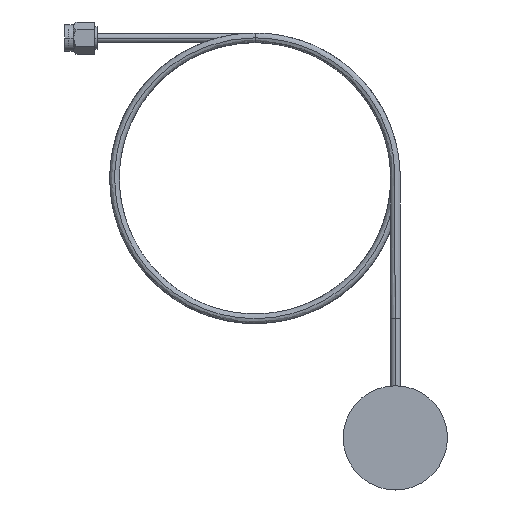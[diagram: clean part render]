
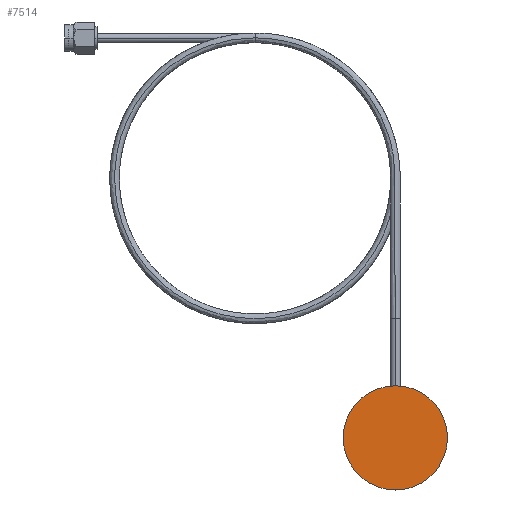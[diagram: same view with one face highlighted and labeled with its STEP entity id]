
A CAD part, top view. The second image highlights one B-rep face of the part: STEP entity #7514.
In plain terms, the highlighted planar face has unit normal (0, 0, 1).
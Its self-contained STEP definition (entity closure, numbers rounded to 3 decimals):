
#138 = FACE_OUTER_BOUND ( 'NONE', #4179, .T. ) ;
#383 = CARTESIAN_POINT ( 'NONE',  ( 0., 0., 204.709 ) ) ;
#542 = ORIENTED_EDGE ( 'NONE', *, *, #14033, .F. ) ;
#1360 = CARTESIAN_POINT ( 'NONE',  ( 0., 0., 204.709 ) ) ;
#1781 = CARTESIAN_POINT ( 'NONE',  ( 14.85, 0., 204.709 ) ) ;
#1897 = ORIENTED_EDGE ( 'NONE', *, *, #8498, .F. ) ;
#2979 = CARTESIAN_POINT ( 'NONE',  ( 14.85, 0., 204.709 ) ) ;
#3042 = AXIS2_PLACEMENT_3D ( 'NONE', #383, #11383, #12624 ) ;
#3736 = CIRCLE ( 'NONE', #3042, 14.85 ) ;
#4092 = CIRCLE ( 'NONE', #4317, 14.85 ) ;
#4179 = EDGE_LOOP ( 'NONE', ( #1897, #542 ) ) ;
#4317 = AXIS2_PLACEMENT_3D ( 'NONE', #1360, #10096, #6808 ) ;
#6808 = DIRECTION ( 'NONE',  ( -1., 0., 0. ) ) ;
#7382 = DIRECTION ( 'NONE',  ( -1., 0., 0. ) ) ;
#7514 = ADVANCED_FACE ( 'NONE', ( #138 ), #9002, .F. ) ;
#8498 = EDGE_CURVE ( 'NONE', #11009, #11973, #4092, .T. ) ;
#9002 = PLANE ( 'NONE',  #10147 ) ;
#9812 = CARTESIAN_POINT ( 'NONE',  ( -14.85, 0., 204.709 ) ) ;
#10096 = DIRECTION ( 'NONE',  ( 0., 0., -1. ) ) ;
#10147 = AXIS2_PLACEMENT_3D ( 'NONE', #1781, #10881, #7382 ) ;
#10881 = DIRECTION ( 'NONE',  ( 0., 0., -1. ) ) ;
#11009 = VERTEX_POINT ( 'NONE', #9812 ) ;
#11383 = DIRECTION ( 'NONE',  ( 0., 0., -1. ) ) ;
#11973 = VERTEX_POINT ( 'NONE', #2979 ) ;
#12624 = DIRECTION ( 'NONE',  ( -1., 0., 0. ) ) ;
#14033 = EDGE_CURVE ( 'NONE', #11973, #11009, #3736, .T. ) ;
